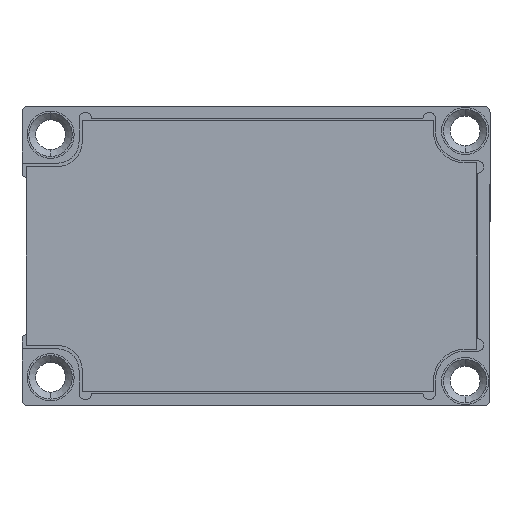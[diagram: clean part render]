
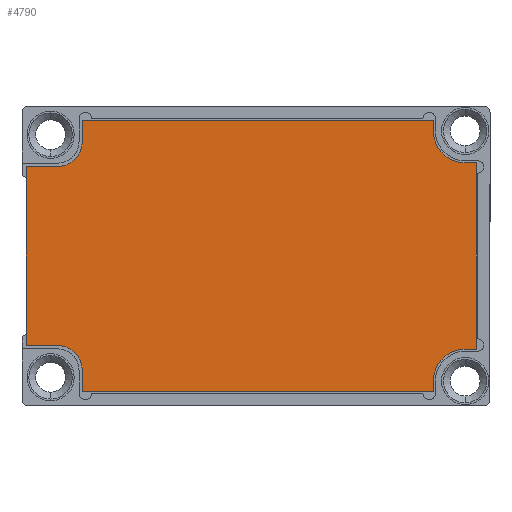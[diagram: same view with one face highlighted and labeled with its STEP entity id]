
A CAD part, front view. The second image highlights one B-rep face of the part: STEP entity #4790.
In plain terms, the highlighted planar face has unit normal (0, -1, 0).
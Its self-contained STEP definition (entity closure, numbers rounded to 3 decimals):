
#3794 = VERTEX_POINT ( 'NONE', #12678 ) ;
#3796 = EDGE_CURVE ( 'NONE', #3818, #3794, #12676, .T. ) ;
#3818 = VERTEX_POINT ( 'NONE', #12762 ) ;
#3831 = VERTEX_POINT ( 'NONE', #12741 ) ;
#3833 = EDGE_CURVE ( 'NONE', #3834, #3831, #12740, .T. ) ;
#3834 = VERTEX_POINT ( 'NONE', #12799 ) ;
#3840 = VERTEX_POINT ( 'NONE', #12790 ) ;
#3842 = EDGE_CURVE ( 'NONE', #3860, #3840, #12789, .T. ) ;
#3847 = VERTEX_POINT ( 'NONE', #12775 ) ;
#3860 = VERTEX_POINT ( 'NONE', #12813 ) ;
#3901 = EDGE_CURVE ( 'NONE', #3902, #3847, #12872, .T. ) ;
#3902 = VERTEX_POINT ( 'NONE', #12868 ) ;
#4716 = EDGE_CURVE ( 'NONE', #3794, #4741, #14695, .T. ) ;
#4722 = EDGE_CURVE ( 'NONE', #4723, #3834, #14690, .T. ) ;
#4723 = VERTEX_POINT ( 'NONE', #14681 ) ;
#4741 = VERTEX_POINT ( 'NONE', #14713 ) ;
#4750 = VERTEX_POINT ( 'NONE', #14764 ) ;
#4752 = EDGE_CURVE ( 'NONE', #3831, #4750, #14763, .T. ) ;
#4758 = EDGE_CURVE ( 'NONE', #4768, #4784, #14752, .T. ) ;
#4765 = EDGE_CURVE ( 'NONE', #4766, #3902, #14742, .T. ) ;
#4766 = VERTEX_POINT ( 'NONE', #14737 ) ;
#4768 = VERTEX_POINT ( 'NONE', #14738 ) ;
#4770 = EDGE_CURVE ( 'NONE', #3840, #4768, #14796, .T. ) ;
#4776 = EDGE_CURVE ( 'NONE', #4741, #4723, #14789, .T. ) ;
#4783 = EDGE_CURVE ( 'NONE', #4784, #3818, #14775, .T. ) ;
#4784 = VERTEX_POINT ( 'NONE', #14771 ) ;
#4788 = EDGE_CURVE ( 'NONE', #4822, #4813, #14830, .T. ) ;
#4790 = ADVANCED_FACE ( 'NONE', ( #14825 ), #14824, .T. ) ;
#4791 = EDGE_LOOP ( 'NONE', ( #4792, #4793, #4794, #4795, #4796, #4854, #4855, #4856, #4857, #4858, #4859, #4860, #4861, #4862, #4840, #4841 ) ) ;
#4792 = ORIENTED_EDGE ( 'NONE', *, *, #3901, .T. ) ;
#4793 = ORIENTED_EDGE ( 'NONE', *, *, #4798, .T. ) ;
#4794 = ORIENTED_EDGE ( 'NONE', *, *, #4788, .T. ) ;
#4795 = ORIENTED_EDGE ( 'NONE', *, *, #4812, .T. ) ;
#4796 = ORIENTED_EDGE ( 'NONE', *, *, #3842, .T. ) ;
#4798 = EDGE_CURVE ( 'NONE', #3847, #4822, #14822, .T. ) ;
#4805 = EDGE_CURVE ( 'NONE', #4750, #4766, #14814, .T. ) ;
#4812 = EDGE_CURVE ( 'NONE', #4813, #3860, #14861, .T. ) ;
#4813 = VERTEX_POINT ( 'NONE', #14857 ) ;
#4822 = VERTEX_POINT ( 'NONE', #14842 ) ;
#4840 = ORIENTED_EDGE ( 'NONE', *, *, #4805, .T. ) ;
#4841 = ORIENTED_EDGE ( 'NONE', *, *, #4765, .T. ) ;
#4854 = ORIENTED_EDGE ( 'NONE', *, *, #4770, .T. ) ;
#4855 = ORIENTED_EDGE ( 'NONE', *, *, #4758, .T. ) ;
#4856 = ORIENTED_EDGE ( 'NONE', *, *, #4783, .T. ) ;
#4857 = ORIENTED_EDGE ( 'NONE', *, *, #3796, .T. ) ;
#4858 = ORIENTED_EDGE ( 'NONE', *, *, #4716, .T. ) ;
#4859 = ORIENTED_EDGE ( 'NONE', *, *, #4776, .T. ) ;
#4860 = ORIENTED_EDGE ( 'NONE', *, *, #4722, .T. ) ;
#4861 = ORIENTED_EDGE ( 'NONE', *, *, #3833, .T. ) ;
#4862 = ORIENTED_EDGE ( 'NONE', *, *, #4752, .T. ) ;
#11961 = VECTOR ( 'NONE', #12220, 1000. ) ;
#12220 = DIRECTION ( 'NONE',  ( -1., 0., 0. ) ) ;
#12675 = CARTESIAN_POINT ( 'NONE',  ( 21.3, -0.254, 1. ) ) ;
#12676 = LINE ( 'NONE', #12675, #11961 ) ;
#12678 = CARTESIAN_POINT ( 'NONE',  ( 6.3, -0.254, 1. ) ) ;
#12739 = CARTESIAN_POINT ( 'NONE',  ( 2.85, -0.254, -2.45 ) ) ;
#12740 = LINE ( 'NONE', #12739, #12801 ) ;
#12741 = CARTESIAN_POINT ( 'NONE',  ( 2.85, -0.254, -30.75 ) ) ;
#12762 = CARTESIAN_POINT ( 'NONE',  ( 21.3, -0.254, 1. ) ) ;
#12775 = CARTESIAN_POINT ( 'NONE',  ( 21.003, -0.254, -35.25 ) ) ;
#12786 = DIRECTION ( 'NONE',  ( 0., 0., 1. ) ) ;
#12787 = VECTOR ( 'NONE', #12786, 1000. ) ;
#12788 = CARTESIAN_POINT ( 'NONE',  ( 24.75, -0.254, -30.75 ) ) ;
#12789 = LINE ( 'NONE', #12788, #12787 ) ;
#12790 = CARTESIAN_POINT ( 'NONE',  ( 24.75, -0.254, -2.45 ) ) ;
#12799 = CARTESIAN_POINT ( 'NONE',  ( 2.85, -0.254, -2.45 ) ) ;
#12800 = DIRECTION ( 'NONE',  ( 0., 0., -1. ) ) ;
#12801 = VECTOR ( 'NONE', #12800, 1000. ) ;
#12813 = CARTESIAN_POINT ( 'NONE',  ( 24.75, -0.254, -30.75 ) ) ;
#12868 = CARTESIAN_POINT ( 'NONE',  ( 6.597, -0.254, -35.25 ) ) ;
#12869 = DIRECTION ( 'NONE',  ( 1., 0., 0. ) ) ;
#12870 = VECTOR ( 'NONE', #12869, 1000. ) ;
#12871 = CARTESIAN_POINT ( 'NONE',  ( 6.597, -0.254, -35.25 ) ) ;
#12872 = LINE ( 'NONE', #12871, #12870 ) ;
#14681 = CARTESIAN_POINT ( 'NONE',  ( 3.75, -0.254, -2.45 ) ) ;
#14682 = DIRECTION ( 'NONE',  ( -1., 0., 0. ) ) ;
#14683 = VECTOR ( 'NONE', #14682, 1000. ) ;
#14684 = CARTESIAN_POINT ( 'NONE',  ( 3.75, -0.254, -2.45 ) ) ;
#14690 = LINE ( 'NONE', #14684, #14683 ) ;
#14692 = DIRECTION ( 'NONE',  ( 0., 0., -1. ) ) ;
#14693 = VECTOR ( 'NONE', #14692, 1000. ) ;
#14694 = CARTESIAN_POINT ( 'NONE',  ( 6.3, -0.254, 1. ) ) ;
#14695 = LINE ( 'NONE', #14694, #14693 ) ;
#14713 = CARTESIAN_POINT ( 'NONE',  ( 6.3, -0.254, 0.1 ) ) ;
#14737 = CARTESIAN_POINT ( 'NONE',  ( 6.597, -0.254, -32.75 ) ) ;
#14738 = CARTESIAN_POINT ( 'NONE',  ( 23.85, -0.254, -2.45 ) ) ;
#14739 = DIRECTION ( 'NONE',  ( 0., 0., -1. ) ) ;
#14740 = VECTOR ( 'NONE', #14739, 1000. ) ;
#14741 = CARTESIAN_POINT ( 'NONE',  ( 6.597, -0.254, -32.75 ) ) ;
#14742 = LINE ( 'NONE', #14741, #14740 ) ;
#14749 = DIRECTION ( 'NONE',  ( 0., 0., -1. ) ) ;
#14750 = DIRECTION ( 'NONE',  ( 0., 1., 0. ) ) ;
#14751 = AXIS2_PLACEMENT_3D ( 'NONE', #14756, #14750, #14749 ) ;
#14752 = CIRCLE ( 'NONE', #14751, 2.55 ) ;
#14756 = CARTESIAN_POINT ( 'NONE',  ( 23.85, -0.254, 0.1 ) ) ;
#14760 = DIRECTION ( 'NONE',  ( 1., 0., 0. ) ) ;
#14761 = VECTOR ( 'NONE', #14760, 1000. ) ;
#14762 = CARTESIAN_POINT ( 'NONE',  ( 2.85, -0.254, -30.75 ) ) ;
#14763 = LINE ( 'NONE', #14762, #14761 ) ;
#14764 = CARTESIAN_POINT ( 'NONE',  ( 4.597, -0.254, -30.75 ) ) ;
#14771 = CARTESIAN_POINT ( 'NONE',  ( 21.3, -0.254, 0.1 ) ) ;
#14772 = DIRECTION ( 'NONE',  ( 0., 0., 1. ) ) ;
#14773 = VECTOR ( 'NONE', #14772, 1000. ) ;
#14774 = CARTESIAN_POINT ( 'NONE',  ( 21.3, -0.254, 0.1 ) ) ;
#14775 = LINE ( 'NONE', #14774, #14773 ) ;
#14782 = DIRECTION ( 'NONE',  ( 0., 0., -1. ) ) ;
#14783 = DIRECTION ( 'NONE',  ( 0., 1., 0. ) ) ;
#14784 = CARTESIAN_POINT ( 'NONE',  ( 3.75, -0.254, 0.1 ) ) ;
#14785 = AXIS2_PLACEMENT_3D ( 'NONE', #14784, #14783, #14782 ) ;
#14789 = CIRCLE ( 'NONE', #14785, 2.55 ) ;
#14793 = DIRECTION ( 'NONE',  ( -1., 0., 0. ) ) ;
#14794 = VECTOR ( 'NONE', #14793, 1000. ) ;
#14795 = CARTESIAN_POINT ( 'NONE',  ( 24.75, -0.254, -2.45 ) ) ;
#14796 = LINE ( 'NONE', #14795, #14794 ) ;
#14805 = DIRECTION ( 'NONE',  ( 0., 0., -1. ) ) ;
#14806 = DIRECTION ( 'NONE',  ( 0., 1., 0. ) ) ;
#14807 = CARTESIAN_POINT ( 'NONE',  ( 4.597, -0.254, -32.75 ) ) ;
#14808 = AXIS2_PLACEMENT_3D ( 'NONE', #14807, #14806, #14805 ) ;
#14814 = CIRCLE ( 'NONE', #14808, 2. ) ;
#14816 = DIRECTION ( 'NONE',  ( 0., 0., 1. ) ) ;
#14817 = VECTOR ( 'NONE', #14816, 1000. ) ;
#14818 = CARTESIAN_POINT ( 'NONE',  ( 21.003, -0.254, -35.25 ) ) ;
#14819 = DIRECTION ( 'NONE',  ( 0., 0., -1. ) ) ;
#14820 = DIRECTION ( 'NONE',  ( 0., -1., 0. ) ) ;
#14821 = CARTESIAN_POINT ( 'NONE',  ( 23.003, -0.254, -32.75 ) ) ;
#14822 = LINE ( 'NONE', #14818, #14817 ) ;
#14823 = AXIS2_PLACEMENT_3D ( 'NONE', #14821, #14820, #14819 ) ;
#14824 = PLANE ( 'NONE',  #14823 ) ;
#14825 = FACE_OUTER_BOUND ( 'NONE', #4791, .T. ) ;
#14826 = DIRECTION ( 'NONE',  ( 0., 0., -1. ) ) ;
#14827 = DIRECTION ( 'NONE',  ( 0., 1., 0. ) ) ;
#14828 = CARTESIAN_POINT ( 'NONE',  ( 23.003, -0.254, -32.75 ) ) ;
#14829 = AXIS2_PLACEMENT_3D ( 'NONE', #14828, #14827, #14826 ) ;
#14830 = CIRCLE ( 'NONE', #14829, 2. ) ;
#14842 = CARTESIAN_POINT ( 'NONE',  ( 21.003, -0.254, -32.75 ) ) ;
#14857 = CARTESIAN_POINT ( 'NONE',  ( 23.003, -0.254, -30.75 ) ) ;
#14858 = DIRECTION ( 'NONE',  ( 1., 0., 0. ) ) ;
#14859 = VECTOR ( 'NONE', #14858, 1000. ) ;
#14860 = CARTESIAN_POINT ( 'NONE',  ( 23.003, -0.254, -30.75 ) ) ;
#14861 = LINE ( 'NONE', #14860, #14859 ) ;
